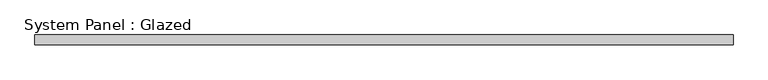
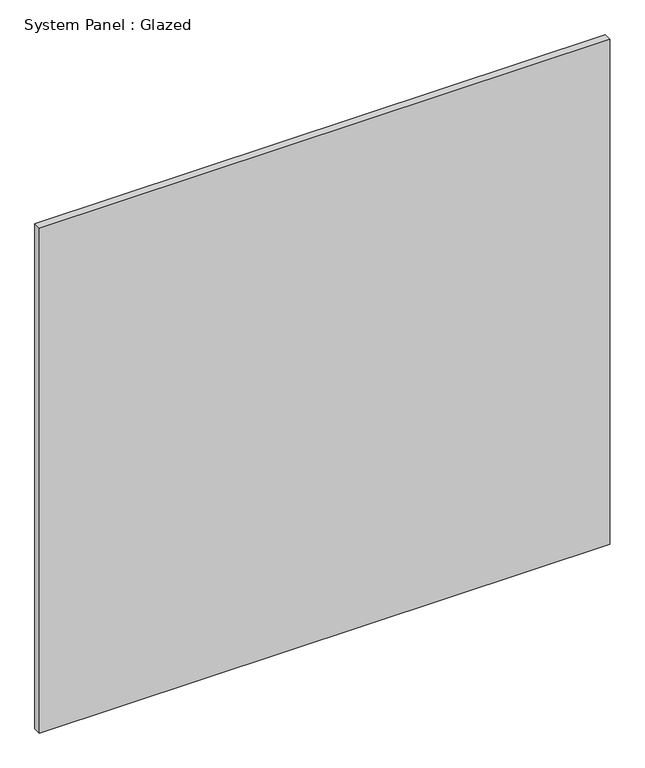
"""IFC4 building model written with IfcOpenShell, lengths in millimetres: plate geometry, System Panel : Glazed."""

from ifc_helpers import new_model, si_unit, origin, origin_with_axes, place, context, project, spatial, polyline, outline, extrude, source, transform, mapped, element, save


def system_panel_glazed_045a3451(model_context):
    return source(origin(), model_context, "Body", "SweptSolid", [
        extrude(outline(polyline([(908.5889212, 24.5), (-908.5889212, 24.5), (-908.5889212, 49.5), (908.5889212, 49.5), (908.5889212, 24.5)])), origin_with_axes(), (0.0, 0.0, 1.0), 1700.0),
    ])


if __name__ == "__main__":
    model = new_model("IFC4")
    model_context = context("Model", 3, world=origin())
    ifc_project = project(units=[si_unit("LENGTHUNIT", "METRE", prefix="MILLI")], contexts=[model_context])
    site = spatial("IfcSite", under=ifc_project)
    building = spatial("IfcBuilding", under=site)
    placement = place(None, origin())
    system_panel_glazed_shape = system_panel_glazed_045a3451(model_context)
    element("IfcPlate", 1, ObjectType="System Panel : Glazed", at=placement, inside=building, context=model_context, shape_type="MappedRepresentation", body=[
        mapped(system_panel_glazed_shape, transform((0.0, 0.0, 0.0), x_axis=(1.0, 0.0, 0.0), y_axis=(0.0, 1.0, 0.0), z_axis=(0.0, 0.0, 1.0))),
    ])
    save(model, "model.ifc")
